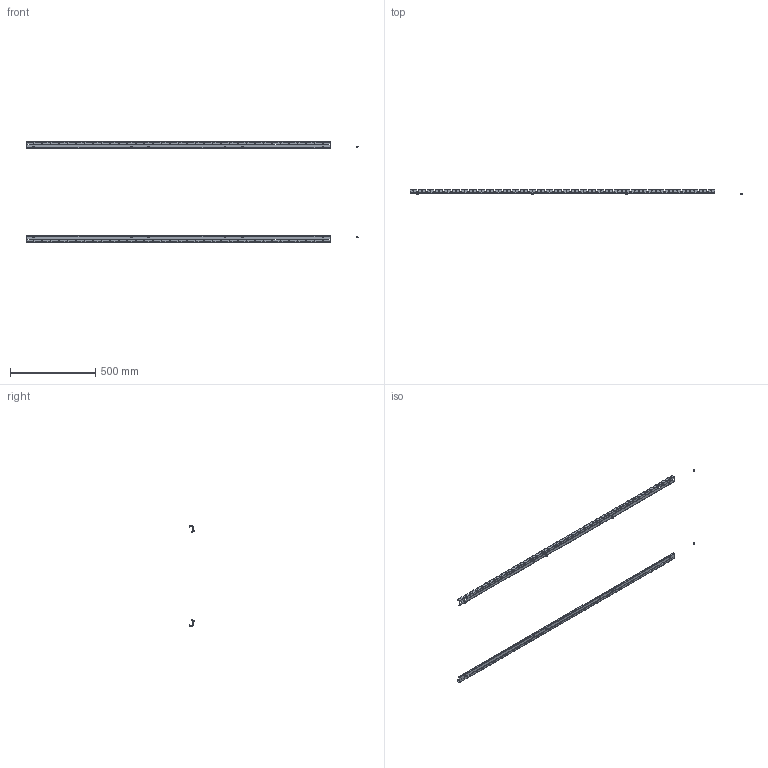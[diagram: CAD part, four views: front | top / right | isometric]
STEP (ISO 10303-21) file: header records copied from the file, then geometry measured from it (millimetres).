
FILE_DESCRIPTION(('CAx-IF Rec.Pracs.---Model Styling and Organization---1.2---2011-12-15','CAx-IF Rec.Pracs.---Geometric and Assembly Validation Properties---4.1---2014-06-16','CAx-IF Rec.Pracs.---PMI Polyline Presentation---2.0---2013-05-24'),'2;1');
FILE_NAME('R5MSSP20.stp','2021-05-05T12:52:53+03:00',(''),(''),'STEP Interface 4.4 by CT CoreTechnologie','3D_Evolution4.4 by CT CoreTechnologie','');
FILE_SCHEMA(('AUTOMOTIVE_DESIGN { 1 0 10303 214 1 1 1 1 }'));
Length unit declared in the file: millimetre
Products named in the file (4): R5MSSP20; socket head cap screw_din_DIN 912 M6 x 10 --- 10S; RB.0907.00.00.1 ÑÁ_-00; RB.0907.00.01.1_-00
Assembly tree (11 placements, depth 3):
  R5MSSP20
    socket head cap screw_din_DIN 912 M6 x 10 --- 10S  x8
    RB.0907.00.00.1 ÑÁ_-00  x2
      RB.0907.00.01.1_-00
Bounding box: 1949.5 x 27.5 x 590 mm (x, y, z)
Surface area: 475162.9 mm2 (no closed solid volume)
Topology: 0 solids, 18 shells, 2174 faces, 6770 edges, 4460 vertices
Faces by surface type: plane 1674, cylinder 484, bspline 16
Entity records: 44787 total; most frequent: ORIENTED_EDGE 6526, CARTESIAN_POINT 6492, DIRECTION 5821, EDGE_CURVE 3263, VECTOR 2785, LINE 2785, VERTEX_POINT 2161, AXIS2_PLACEMENT_3D 1518
